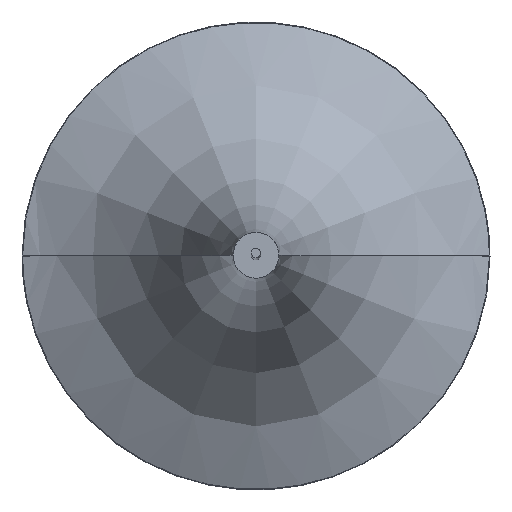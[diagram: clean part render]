
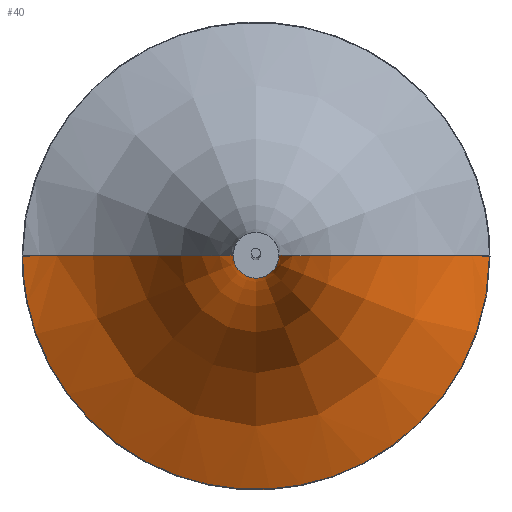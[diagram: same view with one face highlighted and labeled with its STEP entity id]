
A CAD part, top view. The second image highlights one B-rep face of the part: STEP entity #40.
In plain terms, the highlighted free-form (B-spline) face has degree [2, 3] with [5, 10] control points.
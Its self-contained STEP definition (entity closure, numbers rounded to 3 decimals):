
#13=B_SPLINE_CURVE_WITH_KNOTS('',3,(#749,#750,#751,#752,#753,#754,#755,
#756,#757,#758),.UNSPECIFIED.,.F.,.F.,(4,1,1,1,1,1,1,4),(1.513,
2.513,3.513,4.513,5.513,6.513,
7.513,8.513),.UNSPECIFIED.);
#18=B_SPLINE_CURVE_WITH_KNOTS('',3,(#827,#828,#829,#830,#831,#832,#833,
#834,#835,#836),.UNSPECIFIED.,.F.,.F.,(4,1,1,1,1,1,1,4),(1.513,
2.513,3.513,4.513,5.513,6.513,
7.513,8.513),.UNSPECIFIED.);
#40=ADVANCED_FACE('',(#56),#210,.T.);
#56=FACE_OUTER_BOUND('',#72,.T.);
#72=EDGE_LOOP('',(#117,#118,#119,#120));
#117=ORIENTED_EDGE('',*,*,#153,.T.);
#118=ORIENTED_EDGE('',*,*,#142,.T.);
#119=ORIENTED_EDGE('',*,*,#149,.F.);
#120=ORIENTED_EDGE('',*,*,#154,.F.);
#142=EDGE_CURVE('',#187,#186,#13,.T.);
#149=EDGE_CURVE('',#189,#186,#172,.T.);
#153=EDGE_CURVE('',#192,#187,#174,.T.);
#154=EDGE_CURVE('',#192,#189,#18,.T.);
#172=(
BOUNDED_CURVE()
B_SPLINE_CURVE(2,(#783,#784,#785,#786,#787),.UNSPECIFIED.,.F.,.F.)
B_SPLINE_CURVE_WITH_KNOTS((3,2,3),(423.057,634.585,846.114),
 .UNSPECIFIED.)
CURVE()
GEOMETRIC_REPRESENTATION_ITEM()
RATIONAL_B_SPLINE_CURVE((1.,0.707,1.,0.707,1.))
REPRESENTATION_ITEM('')
);
#174=(
BOUNDED_CURVE()
B_SPLINE_CURVE(2,(#822,#823,#824,#825,#826),.UNSPECIFIED.,.F.,.F.)
B_SPLINE_CURVE_WITH_KNOTS((3,2,3),(423.057,634.585,846.114),
 .UNSPECIFIED.)
CURVE()
GEOMETRIC_REPRESENTATION_ITEM()
RATIONAL_B_SPLINE_CURVE((1.,0.707,1.,0.707,1.))
REPRESENTATION_ITEM('')
);
#186=VERTEX_POINT('',#708);
#187=VERTEX_POINT('',#709);
#189=VERTEX_POINT('',#711);
#192=VERTEX_POINT('',#714);
#210=(
BOUNDED_SURFACE()
B_SPLINE_SURFACE(2,3,((#657,#658,#659,#660,#661,#662,#663,#664,#665,#666),
(#667,#668,#669,#670,#671,#672,#673,#674,#675,#676),(#677,#678,#679,#680,
#681,#682,#683,#684,#685,#686),(#687,#688,#689,#690,#691,#692,#693,#694,
#695,#696),(#697,#698,#699,#700,#701,#702,#703,#704,#705,#706)),
 .UNSPECIFIED.,.F.,.F.,.F.)
B_SPLINE_SURFACE_WITH_KNOTS((3,2,3),(4,1,1,1,1,1,1,4),(423.057,
634.585,846.114),(1.513,2.513,3.513,
4.513,5.513,6.513,7.513,8.513),
 .UNSPECIFIED.)
GEOMETRIC_REPRESENTATION_ITEM()
RATIONAL_B_SPLINE_SURFACE(((1.,1.,1.,1.,1.,1.,1.,1.,1.,1.),(0.707,
0.707,0.707,0.707,0.707,
0.707,0.707,0.707,0.707,
0.707),(1.,1.,1.,1.,1.,1.,1.,1.,1.,1.),(0.707,0.707,
0.707,0.707,0.707,0.707,
0.707,0.707,0.707,0.707),
(1.,1.,1.,1.,1.,1.,1.,1.,1.,1.)))
REPRESENTATION_ITEM('')
SURFACE()
);
#657=CARTESIAN_POINT('',(516.338,1395.294,399.58));
#658=CARTESIAN_POINT('',(516.455,1395.294,385.742));
#659=CARTESIAN_POINT('',(517.935,1395.294,358.086));
#660=CARTESIAN_POINT('',(522.986,1395.294,316.868));
#661=CARTESIAN_POINT('',(531.565,1395.294,276.242));
#662=CARTESIAN_POINT('',(545.867,1395.294,237.2));
#663=CARTESIAN_POINT('',(569.632,1395.294,203.164));
#664=CARTESIAN_POINT('',(600.511,1395.294,176.031));
#665=CARTESIAN_POINT('',(625.132,1395.294,164.094));
#666=CARTESIAN_POINT('',(638.184,1395.294,160.705));
#667=CARTESIAN_POINT('',(516.338,1382.099,399.58));
#668=CARTESIAN_POINT('',(516.455,1381.983,385.742));
#669=CARTESIAN_POINT('',(517.935,1380.503,358.086));
#670=CARTESIAN_POINT('',(522.986,1375.452,316.868));
#671=CARTESIAN_POINT('',(531.565,1366.873,276.242));
#672=CARTESIAN_POINT('',(545.867,1352.571,237.2));
#673=CARTESIAN_POINT('',(569.632,1328.805,203.164));
#674=CARTESIAN_POINT('',(600.511,1297.927,176.031));
#675=CARTESIAN_POINT('',(625.132,1273.306,164.094));
#676=CARTESIAN_POINT('',(638.184,1260.254,160.705));
#677=CARTESIAN_POINT('',(503.144,1382.099,399.58));
#678=CARTESIAN_POINT('',(503.144,1381.983,385.742));
#679=CARTESIAN_POINT('',(503.144,1380.503,358.086));
#680=CARTESIAN_POINT('',(503.144,1375.452,316.868));
#681=CARTESIAN_POINT('',(503.144,1366.873,276.242));
#682=CARTESIAN_POINT('',(503.144,1352.571,237.2));
#683=CARTESIAN_POINT('',(503.144,1328.805,203.164));
#684=CARTESIAN_POINT('',(503.144,1297.927,176.031));
#685=CARTESIAN_POINT('',(503.144,1273.306,164.094));
#686=CARTESIAN_POINT('',(503.144,1260.254,160.705));
#687=CARTESIAN_POINT('',(489.95,1382.099,399.58));
#688=CARTESIAN_POINT('',(489.833,1381.983,385.742));
#689=CARTESIAN_POINT('',(488.353,1380.503,358.086));
#690=CARTESIAN_POINT('',(483.302,1375.452,316.868));
#691=CARTESIAN_POINT('',(474.723,1366.873,276.242));
#692=CARTESIAN_POINT('',(460.421,1352.571,237.2));
#693=CARTESIAN_POINT('',(436.656,1328.805,203.164));
#694=CARTESIAN_POINT('',(405.777,1297.927,176.031));
#695=CARTESIAN_POINT('',(381.156,1273.306,164.094));
#696=CARTESIAN_POINT('',(368.104,1260.254,160.705));
#697=CARTESIAN_POINT('',(489.95,1395.294,399.58));
#698=CARTESIAN_POINT('',(489.833,1395.294,385.742));
#699=CARTESIAN_POINT('',(488.353,1395.294,358.086));
#700=CARTESIAN_POINT('',(483.302,1395.294,316.868));
#701=CARTESIAN_POINT('',(474.723,1395.294,276.242));
#702=CARTESIAN_POINT('',(460.421,1395.294,237.2));
#703=CARTESIAN_POINT('',(436.656,1395.294,203.164));
#704=CARTESIAN_POINT('',(405.777,1395.294,176.031));
#705=CARTESIAN_POINT('',(381.156,1395.294,164.094));
#706=CARTESIAN_POINT('',(368.104,1395.294,160.705));
#708=CARTESIAN_POINT('',(368.104,1395.294,160.705));
#709=CARTESIAN_POINT('',(489.95,1395.294,399.58));
#711=CARTESIAN_POINT('',(638.184,1395.294,160.705));
#714=CARTESIAN_POINT('',(516.338,1395.294,399.58));
#749=CARTESIAN_POINT('',(489.95,1395.294,399.58));
#750=CARTESIAN_POINT('',(489.833,1395.294,385.742));
#751=CARTESIAN_POINT('',(488.353,1395.294,358.086));
#752=CARTESIAN_POINT('',(483.302,1395.294,316.868));
#753=CARTESIAN_POINT('',(474.723,1395.294,276.242));
#754=CARTESIAN_POINT('',(460.421,1395.294,237.2));
#755=CARTESIAN_POINT('',(436.656,1395.294,203.164));
#756=CARTESIAN_POINT('',(405.777,1395.294,176.031));
#757=CARTESIAN_POINT('',(381.156,1395.294,164.094));
#758=CARTESIAN_POINT('',(368.104,1395.294,160.705));
#783=CARTESIAN_POINT('',(638.184,1395.294,160.705));
#784=CARTESIAN_POINT('',(638.184,1260.254,160.705));
#785=CARTESIAN_POINT('',(503.144,1260.254,160.705));
#786=CARTESIAN_POINT('',(368.104,1260.254,160.705));
#787=CARTESIAN_POINT('',(368.104,1395.294,160.705));
#822=CARTESIAN_POINT('',(516.338,1395.294,399.58));
#823=CARTESIAN_POINT('',(516.338,1382.099,399.58));
#824=CARTESIAN_POINT('',(503.144,1382.099,399.58));
#825=CARTESIAN_POINT('',(489.95,1382.099,399.58));
#826=CARTESIAN_POINT('',(489.95,1395.294,399.58));
#827=CARTESIAN_POINT('',(516.338,1395.294,399.58));
#828=CARTESIAN_POINT('',(516.455,1395.294,385.742));
#829=CARTESIAN_POINT('',(517.935,1395.294,358.086));
#830=CARTESIAN_POINT('',(522.986,1395.294,316.868));
#831=CARTESIAN_POINT('',(531.565,1395.294,276.242));
#832=CARTESIAN_POINT('',(545.867,1395.294,237.2));
#833=CARTESIAN_POINT('',(569.632,1395.294,203.164));
#834=CARTESIAN_POINT('',(600.511,1395.294,176.031));
#835=CARTESIAN_POINT('',(625.132,1395.294,164.094));
#836=CARTESIAN_POINT('',(638.184,1395.294,160.705));
